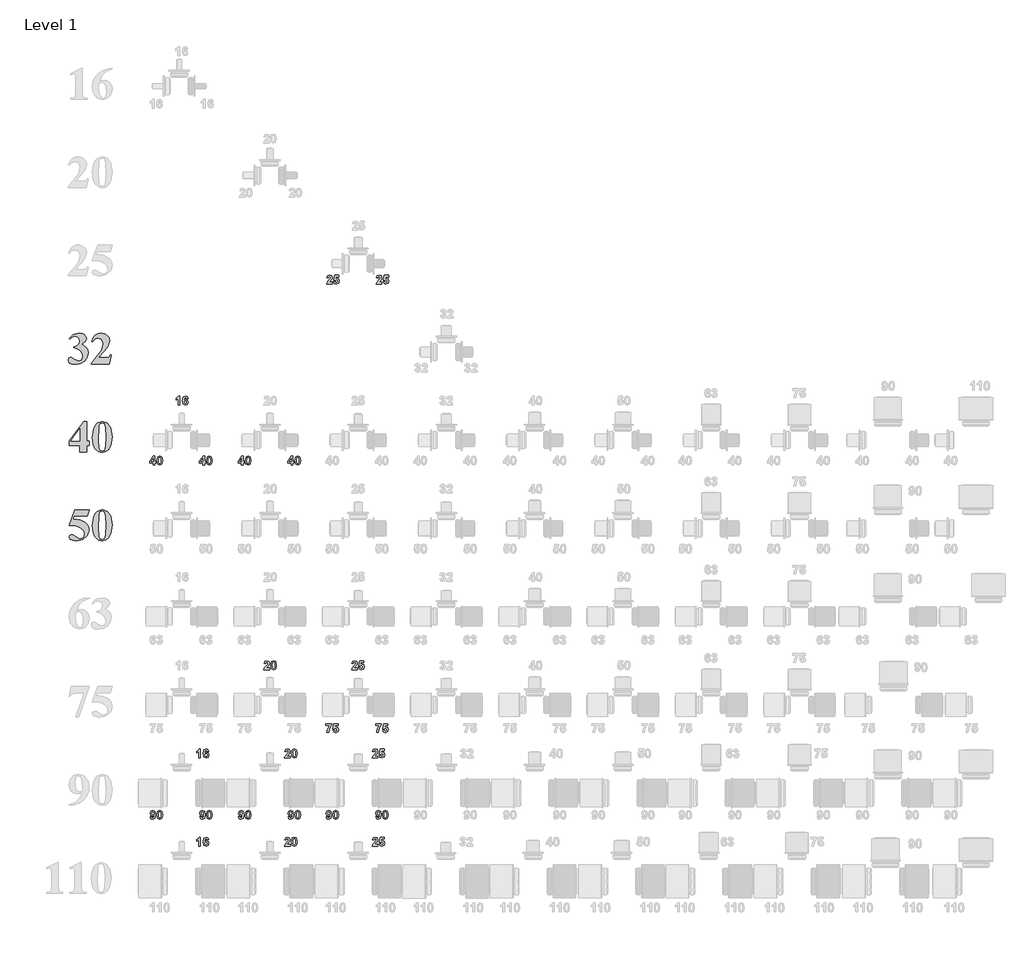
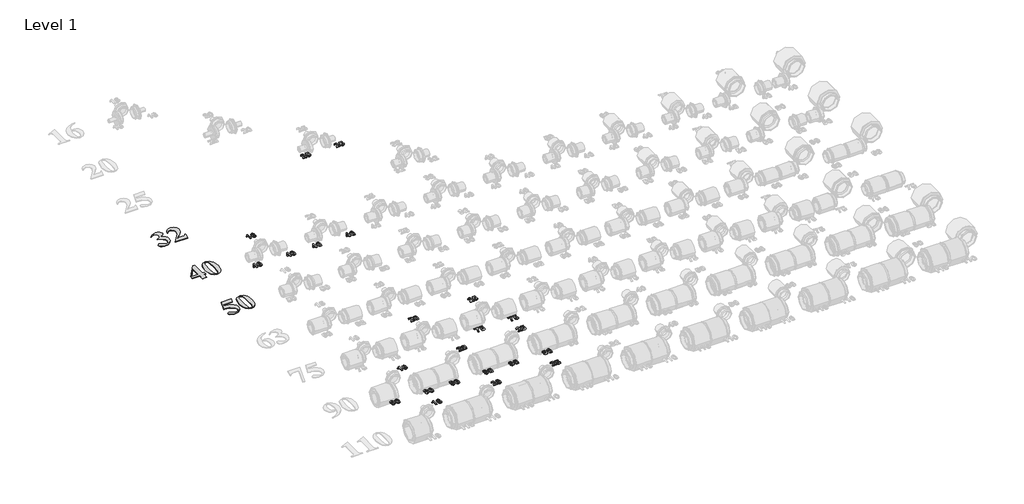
# One storey, part 20 of 57: 26 proxies.
"""IFC4 building model written with IfcOpenShell, lengths in millimetres."""

from ifc_helpers import new_model, si_unit, frame, origin, place, context, project, spatial, polyline, outline, extrude, element, save

model = new_model("IFC4")

# Units and contexts
model_context = context("Model", 3, world=origin())
ifc_project = project(units=[si_unit("LENGTHUNIT", "METRE", prefix="MILLI")], contexts=[model_context])

# Site, building, storey
site = spatial("IfcSite", under=ifc_project)
building = spatial("IfcBuilding", under=site)
storey = spatial("IfcBuildingStorey", under=building, Name="Level 1", Elevation=27.3876384)

# Proxies
placement = place(None, origin())
element("IfcBuildingElementProxy", 1, Name="100mm Arial", ObjectType="100mm Arial", at=placement, inside=storey, context=model_context, shape_type="SweptSolid", body=[
    extrude(outline(polyline([(12899.1420734, 17762.0336893), (12899.1420734, 17763.7786156), (12911.5746733, 17768.5907951), (12917.5592251, 17775.379649), (12920.0811889, 17784.6359377), (12915.3780673, 17795.773475), (12903.667976, 17800.4220677), (12893.6073853, 17797.9887135), (12885.1826631, 17790.6886508), (12883.4377368, 17791.6974363), (12897.8470109, 17806.0794459), (12917.436535, 17810.8916255), (12927.4869015, 17809.4397923), (12935.6083065, 17805.0842927), (12940.9759997, 17798.7861993), (12942.7652307, 17791.506585), (12938.7573531, 17781.7322713), (12926.1884309, 17773.4575036), (12942.4107926, 17762.1700117), (12946.6027053, 17754.6109365), (12948.0000096, 17745.3478316), (12945.0077337, 17729.585558), (12936.0309058, 17716.3793288), (12922.0305988, 17707.4331734), (12903.9678852, 17704.4511217), (12892.3668518, 17705.7325519), (12884.3919934, 17709.5768427), (12879.9478842, 17718.8740281), (12882.5243769, 17725.9491589), (12888.4816644, 17728.8800898), (12893.3347406, 17727.7895108), (12902.1956944, 17721.0551859), (12916.4822784, 17714.9206794), (12926.4065467, 17719.3784208), (12930.5507467, 17730.679545), (12928.5502159, 17740.6890148), (12922.5486238, 17749.8873665), (12912.6959247, 17757.3203435), (12899.1420734, 17762.0336893)])), frame((0.0, 0.0, 27.3876384), z_axis=(0.0, 0.0, 1.0), x_axis=(1.0, 0.0, 0.0)), (0.0, 0.0, 1.0), 2.0),
    extrude(outline(polyline([(13020.3326573, 17706.196048), (12958.4695674, 17706.196048), (12958.4695674, 17707.9409743), (12994.2405563, 17752.5456526), (13000.3477984, 17774.9297852), (12995.1266517, 17788.166687), (12982.3805104, 17793.4423626), (12971.3929277, 17790.5114317), (12963.1863212, 17781.718639), (12960.3780805, 17782.7274246), (12965.6367158, 17795.2281856), (12973.0696928, 17803.9937137), (12982.2475961, 17809.1671476), (12992.7410103, 17810.8916255), (13007.2729746, 17807.3063472), (13017.5653133, 17797.4911369), (13021.2869139, 17785.80831), (13015.7794903, 17765.6598643), (13003.7763059, 17749.1171451), (12982.871271, 17727.1351635), (13004.8464365, 17727.1351635), (13015.3841554, 17727.7349819), (13019.392033, 17729.7798174), (13023.5226007, 17735.8597949), (13026.5216927, 17735.8597949), (13020.3326573, 17706.196048)])), frame((0.0, 0.0, 27.3876384), z_axis=(0.0, 0.0, 1.0), x_axis=(1.0, 0.0, 0.0)), (0.0, 0.0, 1.0), 2.0),
])
element("IfcBuildingElementProxy", 2, Name="100mm Arial", ObjectType="100mm Arial", at=placement, inside=storey, context=model_context, shape_type="SweptSolid", body=[
    extrude(outline(polyline([(12883.4377368, 17444.5844264), (12932.7046401, 17510.8916255), (12942.7652307, 17510.8916255), (12942.7652307, 17444.5844264), (12951.4898622, 17444.5844264), (12951.4898622, 17428.8800898), (12942.7652307, 17428.8800898), (12942.7652307, 17406.196048), (12920.0811889, 17406.196048), (12920.0811889, 17428.8800898), (12883.4377368, 17428.8800898), (12883.4377368, 17444.5844264)]), holes=[polyline([(12888.7270446, 17444.5844264), (12920.0811889, 17444.5844264), (12920.0811889, 17486.7625666), (12888.7270446, 17444.5844264)])]), frame((0.0, 0.0, 27.3876384), z_axis=(0.0, 0.0, 1.0), x_axis=(1.0, 0.0, 0.0)), (0.0, 0.0, 1.0), 2.0),
    extrude(outline(polyline([(13030.0115453, 17457.6713736), (13025.5674362, 17429.0982056), (13018.4514086, 17415.7658781), (13008.3090246, 17407.5047427), (12995.9582182, 17404.4511217), (12982.1760269, 17408.213619), (12971.2838698, 17419.0103504), (12965.3129502, 17432.6425871), (12961.9594199, 17456.4717368), (12966.7852317, 17487.0624758), (12971.7746303, 17497.2491647), (12978.8361289, 17504.7434868), (12995.9582182, 17510.8916255), (13013.0939396, 17504.8252802), (13024.8040309, 17488.5074929), (13030.0115453, 17457.6713736)]), holes=[polyline([(13007.3275035, 17457.6713736), (13006.9730654, 17489.0255179), (13002.8561299, 17503.2303085), (12995.9036892, 17505.6568466), (12990.0690919, 17503.8301269), (12985.7613051, 17494.505677), (12984.6434617, 17447.8561632), (12986.3611236, 17418.6831767), (12990.0554597, 17411.498988), (12996.4217142, 17409.6859006), (13002.8561299, 17412.1124387), (13006.9730654, 17425.1721214), (13007.3275035, 17457.6713736)])]), frame((0.0, 0.0, 27.3876384), z_axis=(0.0, 0.0, 1.0), x_axis=(1.0, 0.0, 0.0)), (0.0, 0.0, 1.0), 2.0),
])
element("IfcBuildingElementProxy", 3, Name="100mm Arial", ObjectType="100mm Arial", at=placement, inside=storey, context=model_context, shape_type="SweptSolid", body=[
    extrude(outline(polyline([(12902.631926, 17209.1466992), (12951.4898622, 17209.1466992), (12944.510157, 17188.2075837), (12900.2326524, 17188.2075837), (12897.042709, 17179.4829522), (12921.3353547, 17175.7068227), (12939.3026426, 17166.3414761), (12948.4430573, 17155.0880647), (12951.4898622, 17141.394483), (12945.7915873, 17122.6910543), (12930.0736184, 17109.0042887), (12908.0848207, 17104.4511217), (12888.2635486, 17109.249669), (12883.4377368, 17116.9655149), (12885.9597006, 17122.8410089), (12891.8351946, 17125.3902372), (12897.9697011, 17124.0815425), (12908.6028457, 17117.1836307), (12916.7821877, 17112.4123479), (12922.2078178, 17111.4308268), (12933.0590782, 17115.9976261), (12937.5304518, 17126.9715766), (12934.1360249, 17139.0088416), (12923.9527441, 17148.5650395), (12908.5960295, 17154.8017878), (12889.6813012, 17156.8807039), (12883.4377368, 17156.7989104), (12902.631926, 17209.1466992)])), frame((0.0, 0.0, 27.3876384), z_axis=(0.0, 0.0, 1.0), x_axis=(1.0, 0.0, 0.0)), (0.0, 0.0, 1.0), 2.0),
    extrude(outline(polyline([(13030.0115453, 17157.6713736), (13025.5674362, 17129.0982056), (13018.4514086, 17115.7658781), (13008.3090246, 17107.5047427), (12995.9582182, 17104.4511217), (12982.1760269, 17108.213619), (12971.2838698, 17119.0103504), (12965.3129502, 17132.6425871), (12961.9594199, 17156.4717368), (12966.7852317, 17187.0624758), (12971.7746303, 17197.2491647), (12978.8361289, 17204.7434868), (12995.9582182, 17210.8916255), (13013.0939396, 17204.8252802), (13024.8040309, 17188.5074929), (13030.0115453, 17157.6713736)]), holes=[polyline([(13007.3275035, 17157.6713736), (13006.9730654, 17189.0255179), (13002.8561299, 17203.2303085), (12995.9036892, 17205.6568466), (12990.0690919, 17203.8301269), (12985.7613051, 17194.505677), (12984.6434617, 17147.8561632), (12986.3611236, 17118.6831767), (12990.0554597, 17111.498988), (12996.4217142, 17109.6859006), (13002.8561299, 17112.1124387), (13006.9730654, 17125.1721214), (13007.3275035, 17157.6713736)])]), frame((0.0, 0.0, 27.3876384), z_axis=(0.0, 0.0, 1.0), x_axis=(1.0, 0.0, 0.0)), (0.0, 0.0, 1.0), 2.0),
])
element("IfcBuildingElementProxy", 4, Name="30mm Arial", ObjectType="30mm Arial", at=placement, inside=storey, context=model_context, shape_type="SweptSolid", body=[
    extrude(outline(polyline([(13778.0287378, 17983.4089076), (13778.0287378, 17977.5788539), (13758.5952254, 17977.5788539), (13760.4550733, 17983.298835), (13766.566002, 17990.4687383), (13771.0751842, 17995.3574813), (13772.1986841, 17998.864623), (13771.2535777, 18001.8138103), (13768.6459951, 18002.84242), (13766.0346169, 18001.8289927), (13764.911117, 17998.4698797), (13759.0810633, 17999.0012648), (13762.2086442, 18006.0497087), (13768.7750458, 18008.1866359), (13775.5615927, 18005.7916074), (13778.0287378, 17999.8362986), (13777.3531196, 17995.979961), (13775.2123968, 17992.146397), (13771.5875912, 17988.3204243), (13768.2588431, 17985.003063), (13767.1657081, 17983.4089076), (13778.0287378, 17983.4089076)])), frame((0.0, 0.0, 27.3876384), z_axis=(0.0, 0.0, 1.0), x_axis=(1.0, 0.0, 0.0)), (0.0, 0.0, 1.0), 2.0),
    extrude(outline(polyline([(13781.9154403, 17986.1948838), (13787.2596562, 17986.8097723), (13788.7475345, 17983.6138705), (13791.6018316, 17982.437232), (13794.7256169, 17983.685987), (13796.0047368, 17987.4474344), (13794.8167115, 17990.9773498), (13791.7232911, 17992.1539882), (13787.4570278, 17989.7247992), (13782.4012781, 17990.4763295), (13785.8021428, 18007.7007981), (13800.3772771, 18007.7007981), (13800.3772771, 18001.8707444), (13790.5162878, 18001.8707444), (13789.3396493, 17996.3063832), (13793.0973011, 17997.4982041), (13799.2917332, 17994.7387972), (13801.8347905, 17987.5764851), (13799.7168413, 17981.0252659), (13791.6929262, 17977.0930161), (13785.0088607, 17979.5601612), (13781.9154403, 17986.1948838)])), frame((0.0, 0.0, 27.3876384), z_axis=(0.0, 0.0, 1.0), x_axis=(1.0, 0.0, 0.0)), (0.0, 0.0, 1.0), 2.0),
])
element("IfcBuildingElementProxy", 5, Name="30mm Arial", ObjectType="30mm Arial", at=placement, inside=storey, context=model_context, shape_type="SweptSolid", body=[
    extrude(outline(polyline([(13946.7787378, 17983.4089076), (13946.7787378, 17977.5788539), (13927.3452254, 17977.5788539), (13929.2050733, 17983.298835), (13935.316002, 17990.4687383), (13939.8251842, 17995.3574813), (13940.9486841, 17998.864623), (13940.0035777, 18001.8138103), (13937.3959951, 18002.84242), (13934.7846169, 18001.8289927), (13933.661117, 17998.4698797), (13927.8310633, 17999.0012648), (13930.9586442, 18006.0497087), (13937.5250458, 18008.1866359), (13944.3115927, 18005.7916074), (13946.7787378, 17999.8362986), (13946.1031196, 17995.979961), (13943.9623968, 17992.146397), (13940.3375912, 17988.3204243), (13937.0088431, 17985.003063), (13935.9157081, 17983.4089076), (13946.7787378, 17983.4089076)])), frame((0.0, 0.0, 27.3876384), z_axis=(0.0, 0.0, 1.0), x_axis=(1.0, 0.0, 0.0)), (0.0, 0.0, 1.0), 2.0),
    extrude(outline(polyline([(13950.6654403, 17986.1948838), (13956.0096562, 17986.8097723), (13957.4975345, 17983.6138705), (13960.3518316, 17982.437232), (13963.4756169, 17983.685987), (13964.7547368, 17987.4474344), (13963.5667115, 17990.9773498), (13960.4732911, 17992.1539882), (13956.2070278, 17989.7247992), (13951.1512781, 17990.4763295), (13954.5521428, 18007.7007981), (13969.1272771, 18007.7007981), (13969.1272771, 18001.8707444), (13959.2662878, 18001.8707444), (13958.0896493, 17996.3063832), (13961.8473011, 17997.4982041), (13968.0417332, 17994.7387972), (13970.5847905, 17987.5764851), (13968.4668413, 17981.0252659), (13960.4429262, 17977.0930161), (13953.7588607, 17979.5601612), (13950.6654403, 17986.1948838)])), frame((0.0, 0.0, 27.3876384), z_axis=(0.0, 0.0, 1.0), x_axis=(1.0, 0.0, 0.0)), (0.0, 0.0, 1.0), 2.0),
])
element("IfcBuildingElementProxy", 6, Name="30mm Arial", ObjectType="30mm Arial", at=placement, inside=storey, context=model_context, shape_type="SweptSolid", body=[
    extrude(outline(polyline([(13169.2836573, 17362.5788539), (13169.2836573, 17368.8947455), (13157.6235498, 17368.8947455), (13157.6235498, 17373.7303499), (13170.0579613, 17392.7007981), (13175.113711, 17392.7007981), (13175.113711, 17373.7531236), (13179.0004134, 17373.7531236), (13179.0004134, 17368.8947455), (13175.113711, 17368.8947455), (13175.113711, 17362.5788539), (13169.2836573, 17362.5788539)]), holes=[polyline([(13169.2836573, 17373.7531236), (13169.2836573, 17383.6976162), (13162.7703941, 17373.7531236), (13169.2836573, 17373.7531236)])]), frame((0.0, 0.0, 27.3876384), z_axis=(0.0, 0.0, 1.0), x_axis=(1.0, 0.0, 0.0)), (0.0, 0.0, 1.0), 2.0),
    extrude(outline(polyline([(13191.6321965, 17393.1866359), (13198.4263346, 17390.0286902), (13201.3489527, 17377.6322348), (13198.4111522, 17365.2054146), (13191.6321965, 17362.0930161), (13184.5913439, 17365.5090632), (13181.9154403, 17377.6929645), (13184.8532408, 17390.0742375), (13191.6321965, 17393.1866359)]), holes=[polyline([(13191.6321965, 17387.84242), (13189.6888453, 17387.2009623), (13188.3679737, 17384.8970283), (13187.745494, 17377.6322348), (13188.2996528, 17370.6141558), (13189.7002321, 17368.0710985), (13191.6321965, 17367.437232), (13193.5755477, 17368.0786898), (13194.8964193, 17370.3826237), (13195.518899, 17377.6322348), (13194.9647402, 17384.6465182), (13193.5641609, 17387.2009623), (13191.6321965, 17387.84242)])]), frame((0.0, 0.0, 27.3876384), z_axis=(0.0, 0.0, 1.0), x_axis=(1.0, 0.0, 0.0)), (0.0, 0.0, 1.0), 2.0),
])
element("IfcBuildingElementProxy", 7, Name="30mm Arial", ObjectType="30mm Arial", at=placement, inside=storey, context=model_context, shape_type="SweptSolid", body=[
    extrude(outline(polyline([(13338.0336573, 17362.5788539), (13338.0336573, 17368.8947455), (13326.3735498, 17368.8947455), (13326.3735498, 17373.7303499), (13338.8079613, 17392.7007981), (13343.863711, 17392.7007981), (13343.863711, 17373.7531236), (13347.7504134, 17373.7531236), (13347.7504134, 17368.8947455), (13343.863711, 17368.8947455), (13343.863711, 17362.5788539), (13338.0336573, 17362.5788539)]), holes=[polyline([(13338.0336573, 17373.7531236), (13338.0336573, 17383.6976162), (13331.5203941, 17373.7531236), (13338.0336573, 17373.7531236)])]), frame((0.0, 0.0, 27.3876384), z_axis=(0.0, 0.0, 1.0), x_axis=(1.0, 0.0, 0.0)), (0.0, 0.0, 1.0), 2.0),
    extrude(outline(polyline([(13360.3821965, 17393.1866359), (13367.1763346, 17390.0286902), (13370.0989527, 17377.6322348), (13367.1611522, 17365.2054146), (13360.3821965, 17362.0930161), (13353.3413439, 17365.5090632), (13350.6654403, 17377.6929645), (13353.6032408, 17390.0742375), (13360.3821965, 17393.1866359)]), holes=[polyline([(13360.3821965, 17387.84242), (13358.4388453, 17387.2009623), (13357.1179737, 17384.8970283), (13356.495494, 17377.6322348), (13357.0496528, 17370.6141558), (13358.4502321, 17368.0710985), (13360.3821965, 17367.437232), (13362.3255477, 17368.0786898), (13363.6464193, 17370.3826237), (13364.268899, 17377.6322348), (13363.7147402, 17384.6465182), (13362.3141609, 17387.2009623), (13360.3821965, 17387.84242)])]), frame((0.0, 0.0, 27.3876384), z_axis=(0.0, 0.0, 1.0), x_axis=(1.0, 0.0, 0.0)), (0.0, 0.0, 1.0), 2.0),
])
element("IfcBuildingElementProxy", 8, Name="30mm Arial", ObjectType="30mm Arial", at=placement, inside=storey, context=model_context, shape_type="SweptSolid", body=[
    extrude(outline(polyline([(13260.0985445, 17566.3974945), (13254.2684908, 17566.3974945), (13254.2684908, 17588.2753784), (13246.9809237, 17583.4018178), (13246.9809237, 17589.2318715), (13251.846893, 17592.0899643), (13255.4527205, 17597.0052765), (13260.0985445, 17597.0052765), (13260.0985445, 17566.3974945)])), frame((0.0, 0.0, 27.3876384), z_axis=(0.0, 0.0, 1.0), x_axis=(1.0, 0.0, 0.0)), (0.0, 0.0, 1.0), 2.0),
    extrude(outline(polyline([(13287.7912997, 17588.8826756), (13281.961246, 17588.2601959), (13280.9288406, 17590.8298225), (13278.7577529, 17591.6610606), (13275.7668139, 17590.0479272), (13274.2257971, 17583.2727672), (13279.5548306, 17585.8310069), (13285.7151022, 17583.0981692), (13288.2771375, 17576.0459297), (13285.658168, 17568.686246), (13278.9247597, 17565.9116567), (13271.6827398, 17569.4947105), (13268.8436251, 17581.2383213), (13271.8079949, 17593.3083544), (13279.5092833, 17597.0052765), (13285.0129147, 17594.9252834), (13287.7912997, 17588.8826756)]), holes=[polyline([(13274.6736788, 17576.1749804), (13275.9338206, 17572.5349924), (13278.8108914, 17571.2558726), (13281.4070872, 17572.3034604), (13282.4470838, 17575.7422811), (13281.3273794, 17579.344313), (13278.5300164, 17580.486791), (13275.7933831, 17579.3936559), (13274.6736788, 17576.1749804)])]), frame((0.0, 0.0, 27.3876384), z_axis=(0.0, 0.0, 1.0), x_axis=(1.0, 0.0, 0.0)), (0.0, 0.0, 1.0), 2.0),
])
element("IfcBuildingElementProxy", 9, Name="30mm Arial", ObjectType="30mm Arial", at=placement, inside=storey, context=model_context, shape_type="SweptSolid", body=[
    extrude(outline(polyline([(13469.2836573, 17362.5788539), (13469.2836573, 17368.8947455), (13457.6235498, 17368.8947455), (13457.6235498, 17373.7303499), (13470.0579613, 17392.7007981), (13475.113711, 17392.7007981), (13475.113711, 17373.7531236), (13479.0004134, 17373.7531236), (13479.0004134, 17368.8947455), (13475.113711, 17368.8947455), (13475.113711, 17362.5788539), (13469.2836573, 17362.5788539)]), holes=[polyline([(13469.2836573, 17373.7531236), (13469.2836573, 17383.6976162), (13462.7703941, 17373.7531236), (13469.2836573, 17373.7531236)])]), frame((0.0, 0.0, 27.3876384), z_axis=(0.0, 0.0, 1.0), x_axis=(1.0, 0.0, 0.0)), (0.0, 0.0, 1.0), 2.0),
    extrude(outline(polyline([(13491.6321965, 17393.1866359), (13498.4263346, 17390.0286902), (13501.3489527, 17377.6322348), (13498.4111522, 17365.2054146), (13491.6321965, 17362.0930161), (13484.5913439, 17365.5090632), (13481.9154403, 17377.6929645), (13484.8532408, 17390.0742375), (13491.6321965, 17393.1866359)]), holes=[polyline([(13491.6321965, 17387.84242), (13489.6888453, 17387.2009623), (13488.3679737, 17384.8970283), (13487.745494, 17377.6322348), (13488.2996528, 17370.6141558), (13489.7002321, 17368.0710985), (13491.6321965, 17367.437232), (13493.5755477, 17368.0786898), (13494.8964193, 17370.3826237), (13495.518899, 17377.6322348), (13494.9647402, 17384.6465182), (13493.5641609, 17387.2009623), (13491.6321965, 17387.84242)])]), frame((0.0, 0.0, 27.3876384), z_axis=(0.0, 0.0, 1.0), x_axis=(1.0, 0.0, 0.0)), (0.0, 0.0, 1.0), 2.0),
])
element("IfcBuildingElementProxy", 10, Name="30mm Arial", ObjectType="30mm Arial", at=placement, inside=storey, context=model_context, shape_type="SweptSolid", body=[
    extrude(outline(polyline([(13638.0336573, 17362.5788539), (13638.0336573, 17368.8947455), (13626.3735498, 17368.8947455), (13626.3735498, 17373.7303499), (13638.8079613, 17392.7007981), (13643.863711, 17392.7007981), (13643.863711, 17373.7531236), (13647.7504134, 17373.7531236), (13647.7504134, 17368.8947455), (13643.863711, 17368.8947455), (13643.863711, 17362.5788539), (13638.0336573, 17362.5788539)]), holes=[polyline([(13638.0336573, 17373.7531236), (13638.0336573, 17383.6976162), (13631.5203941, 17373.7531236), (13638.0336573, 17373.7531236)])]), frame((0.0, 0.0, 27.3876384), z_axis=(0.0, 0.0, 1.0), x_axis=(1.0, 0.0, 0.0)), (0.0, 0.0, 1.0), 2.0),
    extrude(outline(polyline([(13660.3821965, 17393.1866359), (13667.1763346, 17390.0286902), (13670.0989527, 17377.6322348), (13667.1611522, 17365.2054146), (13660.3821965, 17362.0930161), (13653.3413439, 17365.5090632), (13650.6654403, 17377.6929645), (13653.6032408, 17390.0742375), (13660.3821965, 17393.1866359)]), holes=[polyline([(13660.3821965, 17387.84242), (13658.4388453, 17387.2009623), (13657.1179737, 17384.8970283), (13656.495494, 17377.6322348), (13657.0496528, 17370.6141558), (13658.4502321, 17368.0710985), (13660.3821965, 17367.437232), (13662.3255477, 17368.0786898), (13663.6464193, 17370.3826237), (13664.268899, 17377.6322348), (13663.7147402, 17384.6465182), (13662.3141609, 17387.2009623), (13660.3821965, 17387.84242)])]), frame((0.0, 0.0, 27.3876384), z_axis=(0.0, 0.0, 1.0), x_axis=(1.0, 0.0, 0.0)), (0.0, 0.0, 1.0), 2.0),
])
element("IfcBuildingElementProxy", 11, Name="30mm Arial", ObjectType="30mm Arial", at=placement, inside=storey, context=model_context, shape_type="SweptSolid", body=[
    extrude(outline(polyline([(13564.9569226, 16672.2275482), (13564.9569226, 16666.3974945), (13545.5234103, 16666.3974945), (13547.3832581, 16672.1174756), (13553.4941868, 16679.2873789), (13558.003369, 16684.1761218), (13559.1268689, 16687.6832635), (13558.1817626, 16690.6324508), (13555.5741799, 16691.6610606), (13552.9628017, 16690.6476333), (13551.8393018, 16687.2885203), (13546.0092481, 16687.8199054), (13549.136829, 16694.8683493), (13555.7032306, 16697.0052765), (13562.4897775, 16694.6102479), (13564.9569226, 16688.6549391), (13564.2813044, 16684.7986015), (13562.1405816, 16680.9650376), (13558.515776, 16677.1390648), (13555.1870279, 16673.8217035), (13554.0938929, 16672.2275482), (13564.9569226, 16672.2275482)])), frame((0.0, 0.0, 27.3876384), z_axis=(0.0, 0.0, 1.0), x_axis=(1.0, 0.0, 0.0)), (0.0, 0.0, 1.0), 2.0),
    extrude(outline(polyline([(13578.5603813, 16697.0052765), (13585.3545194, 16693.8473307), (13588.2771375, 16681.4508754), (13585.339337, 16669.0240552), (13578.5603813, 16665.9116567), (13571.5195287, 16669.3277038), (13568.8436251, 16681.5116051), (13571.7814256, 16693.892878), (13578.5603813, 16697.0052765)]), holes=[polyline([(13578.5603813, 16691.6610606), (13576.6170301, 16691.0196029), (13575.2961585, 16688.7156689), (13574.6736788, 16681.4508754), (13575.2278376, 16674.4327964), (13576.6284169, 16671.8897391), (13578.5603813, 16671.2558726), (13580.5037325, 16671.8973303), (13581.8246041, 16674.2012643), (13582.4470838, 16681.4508754), (13581.892925, 16688.4651587), (13580.4923457, 16691.0196029), (13578.5603813, 16691.6610606)])]), frame((0.0, 0.0, 27.3876384), z_axis=(0.0, 0.0, 1.0), x_axis=(1.0, 0.0, 0.0)), (0.0, 0.0, 1.0), 2.0),
])
element("IfcBuildingElementProxy", 12, Name="30mm Arial", ObjectType="30mm Arial", at=placement, inside=storey, context=model_context, shape_type="SweptSolid", body=[
    extrude(outline(polyline([(13756.5952254, 16476.8707444), (13756.5952254, 16482.7007981), (13776.0287378, 16482.7007981), (13776.0287378, 16478.3282578), (13771.022331, 16471.3595218), (13767.1394242, 16461.7110865), (13765.8261438, 16452.5788539), (13759.9960901, 16452.5788539), (13762.6568112, 16465.2903447), (13769.3636504, 16476.8707444), (13756.5952254, 16476.8707444)])), frame((0.0, 0.0, 27.3876384), z_axis=(0.0, 0.0, 1.0), x_axis=(1.0, 0.0, 0.0)), (0.0, 0.0, 1.0), 2.0),
    extrude(outline(polyline([(13779.9154403, 16461.1948838), (13785.2596562, 16461.8097723), (13786.7475345, 16458.6138705), (13789.6018316, 16457.437232), (13792.7256169, 16458.685987), (13794.0047368, 16462.4474344), (13792.8167115, 16465.9773498), (13789.7232911, 16467.1539882), (13785.4570278, 16464.7247992), (13780.4012781, 16465.4763295), (13783.8021428, 16482.7007981), (13798.3772771, 16482.7007981), (13798.3772771, 16476.8707444), (13788.5162878, 16476.8707444), (13787.3396493, 16471.3063832), (13791.0973011, 16472.4982041), (13797.2917332, 16469.7387972), (13799.8347905, 16462.5764851), (13797.7168413, 16456.0252659), (13789.6929262, 16452.0930161), (13783.0088607, 16454.5601612), (13779.9154403, 16461.1948838)])), frame((0.0, 0.0, 27.3876384), z_axis=(0.0, 0.0, 1.0), x_axis=(1.0, 0.0, 0.0)), (0.0, 0.0, 1.0), 2.0),
])
element("IfcBuildingElementProxy", 13, Name="30mm Arial", ObjectType="30mm Arial", at=placement, inside=storey, context=model_context, shape_type="SweptSolid", body=[
    extrude(outline(polyline([(13925.3452254, 16476.8707444), (13925.3452254, 16482.7007981), (13944.7787378, 16482.7007981), (13944.7787378, 16478.3282578), (13939.772331, 16471.3595218), (13935.8894242, 16461.7110865), (13934.5761438, 16452.5788539), (13928.7460901, 16452.5788539), (13931.4068112, 16465.2903447), (13938.1136504, 16476.8707444), (13925.3452254, 16476.8707444)])), frame((0.0, 0.0, 27.3876384), z_axis=(0.0, 0.0, 1.0), x_axis=(1.0, 0.0, 0.0)), (0.0, 0.0, 1.0), 2.0),
    extrude(outline(polyline([(13948.6654403, 16461.1948838), (13954.0096562, 16461.8097723), (13955.4975345, 16458.6138705), (13958.3518316, 16457.437232), (13961.4756169, 16458.685987), (13962.7547368, 16462.4474344), (13961.5667115, 16465.9773498), (13958.4732911, 16467.1539882), (13954.2070278, 16464.7247992), (13949.1512781, 16465.4763295), (13952.5521428, 16482.7007981), (13967.1272771, 16482.7007981), (13967.1272771, 16476.8707444), (13957.2662878, 16476.8707444), (13956.0896493, 16471.3063832), (13959.8473011, 16472.4982041), (13966.0417332, 16469.7387972), (13968.5847905, 16462.5764851), (13966.4668413, 16456.0252659), (13958.4429262, 16452.0930161), (13951.7588607, 16454.5601612), (13948.6654403, 16461.1948838)])), frame((0.0, 0.0, 27.3876384), z_axis=(0.0, 0.0, 1.0), x_axis=(1.0, 0.0, 0.0)), (0.0, 0.0, 1.0), 2.0),
])
element("IfcBuildingElementProxy", 14, Name="30mm Arial", ObjectType="30mm Arial", at=placement, inside=storey, context=model_context, shape_type="SweptSolid", body=[
    extrude(outline(polyline([(13862.9569226, 16672.2275482), (13862.9569226, 16666.3974945), (13843.5234103, 16666.3974945), (13845.3832581, 16672.1174756), (13851.4941868, 16679.2873789), (13856.003369, 16684.1761218), (13857.1268689, 16687.6832635), (13856.1817626, 16690.6324508), (13853.5741799, 16691.6610606), (13850.9628017, 16690.6476333), (13849.8393018, 16687.2885203), (13844.0092481, 16687.8199054), (13847.136829, 16694.8683493), (13853.7032306, 16697.0052765), (13860.4897775, 16694.6102479), (13862.9569226, 16688.6549391), (13862.2813044, 16684.7986015), (13860.1405816, 16680.9650376), (13856.515776, 16677.1390648), (13853.1870279, 16673.8217035), (13852.0938929, 16672.2275482), (13862.9569226, 16672.2275482)])), frame((0.0, 0.0, 27.3876384), z_axis=(0.0, 0.0, 1.0), x_axis=(1.0, 0.0, 0.0)), (0.0, 0.0, 1.0), 2.0),
    extrude(outline(polyline([(13866.8436251, 16675.0135244), (13872.187841, 16675.6284129), (13873.6757193, 16672.432511), (13876.5300164, 16671.2558726), (13879.6538017, 16672.5046276), (13880.9329216, 16676.266075), (13879.7448963, 16679.7959903), (13876.6514759, 16680.9726288), (13872.3852126, 16678.5434397), (13867.3294629, 16679.2949701), (13870.7303276, 16696.5194387), (13885.3054619, 16696.5194387), (13885.3054619, 16690.689385), (13875.4444726, 16690.689385), (13874.2678341, 16685.1250238), (13878.0254859, 16686.3168447), (13884.219918, 16683.5574377), (13886.7629753, 16676.3951257), (13884.6450261, 16669.8439065), (13876.621111, 16665.9116567), (13869.9370455, 16668.3788018), (13866.8436251, 16675.0135244)])), frame((0.0, 0.0, 27.3876384), z_axis=(0.0, 0.0, 1.0), x_axis=(1.0, 0.0, 0.0)), (0.0, 0.0, 1.0), 2.0),
])
element("IfcBuildingElementProxy", 15, Name="30mm Arial", ObjectType="30mm Arial", at=placement, inside=storey, context=model_context, shape_type="SweptSolid", body=[
    extrude(outline(polyline([(13159.0810633, 16165.215617), (13164.911117, 16165.8380967), (13165.9473179, 16163.2722658), (13168.1601573, 16162.437232), (13171.105549, 16164.0503654), (13172.6617483, 16170.8027518), (13167.2492114, 16168.2672857), (13161.1572608, 16170.9887366), (13158.5952254, 16178.0751365), (13161.2255817, 16185.4044553), (13167.9248296, 16188.1866359), (13175.1896231, 16184.6073777), (13178.0287378, 16172.8296064), (13175.0605725, 16160.7861426), (13167.3327148, 16157.0930161), (13161.7911273, 16159.1274619), (13159.0810633, 16165.215617)]), holes=[polyline([(13172.1986841, 16177.9384946), (13170.9461335, 16181.555709), (13168.0538803, 16182.84242), (13165.4576845, 16181.787241), (13164.4252792, 16178.3332379), (13165.5487791, 16174.7539796), (13168.3499377, 16173.6115016), (13171.086571, 16174.7084323), (13172.1986841, 16177.9384946)])]), frame((0.0, 0.0, 27.3876384), z_axis=(0.0, 0.0, 1.0), x_axis=(1.0, 0.0, 0.0)), (0.0, 0.0, 1.0), 2.0),
    extrude(outline(polyline([(13191.6321965, 16188.1866359), (13198.4263346, 16185.0286902), (13201.3489527, 16172.6322348), (13198.4111522, 16160.2054146), (13191.6321965, 16157.0930161), (13184.5913439, 16160.5090632), (13181.9154403, 16172.6929645), (13184.8532408, 16185.0742375), (13191.6321965, 16188.1866359)]), holes=[polyline([(13191.6321965, 16182.84242), (13189.6888453, 16182.2009623), (13188.3679737, 16179.8970283), (13187.745494, 16172.6322348), (13188.2996528, 16165.6141558), (13189.7002321, 16163.0710985), (13191.6321965, 16162.437232), (13193.5755477, 16163.0786898), (13194.8964193, 16165.3826237), (13195.518899, 16172.6322348), (13194.9647402, 16179.6465182), (13193.5641609, 16182.2009623), (13191.6321965, 16182.84242)])]), frame((0.0, 0.0, 27.3876384), z_axis=(0.0, 0.0, 1.0), x_axis=(1.0, 0.0, 0.0)), (0.0, 0.0, 1.0), 2.0),
])
element("IfcBuildingElementProxy", 16, Name="30mm Arial", ObjectType="30mm Arial", at=placement, inside=storey, context=model_context, shape_type="SweptSolid", body=[
    extrude(outline(polyline([(13327.8310633, 16165.215617), (13333.661117, 16165.8380967), (13334.6973179, 16163.2722658), (13336.9101573, 16162.437232), (13339.855549, 16164.0503654), (13341.4117483, 16170.8027518), (13335.9992114, 16168.2672857), (13329.9072608, 16170.9887366), (13327.3452254, 16178.0751365), (13329.9755817, 16185.4044553), (13336.6748296, 16188.1866359), (13343.9396231, 16184.6073777), (13346.7787378, 16172.8296064), (13343.8105725, 16160.7861426), (13336.0827148, 16157.0930161), (13330.5411273, 16159.1274619), (13327.8310633, 16165.215617)]), holes=[polyline([(13340.9486841, 16177.9384946), (13339.6961335, 16181.555709), (13336.8038803, 16182.84242), (13334.2076845, 16181.787241), (13333.1752792, 16178.3332379), (13334.2987791, 16174.7539796), (13337.0999377, 16173.6115016), (13339.836571, 16174.7084323), (13340.9486841, 16177.9384946)])]), frame((0.0, 0.0, 27.3876384), z_axis=(0.0, 0.0, 1.0), x_axis=(1.0, 0.0, 0.0)), (0.0, 0.0, 1.0), 2.0),
    extrude(outline(polyline([(13360.3821965, 16188.1866359), (13367.1763346, 16185.0286902), (13370.0989527, 16172.6322348), (13367.1611522, 16160.2054146), (13360.3821965, 16157.0930161), (13353.3413439, 16160.5090632), (13350.6654403, 16172.6929645), (13353.6032408, 16185.0742375), (13360.3821965, 16188.1866359)]), holes=[polyline([(13360.3821965, 16182.84242), (13358.4388453, 16182.2009623), (13357.1179737, 16179.8970283), (13356.495494, 16172.6322348), (13357.0496528, 16165.6141558), (13358.4502321, 16163.0710985), (13360.3821965, 16162.437232), (13362.3255477, 16163.0786898), (13363.6464193, 16165.3826237), (13364.268899, 16172.6322348), (13363.7147402, 16179.6465182), (13362.3141609, 16182.2009623), (13360.3821965, 16182.84242)])]), frame((0.0, 0.0, 27.3876384), z_axis=(0.0, 0.0, 1.0), x_axis=(1.0, 0.0, 0.0)), (0.0, 0.0, 1.0), 2.0),
])
element("IfcBuildingElementProxy", 17, Name="30mm Arial", ObjectType="30mm Arial", at=placement, inside=storey, context=model_context, shape_type="SweptSolid", body=[
    extrude(outline(polyline([(13330.0985445, 16366.3974945), (13324.2684908, 16366.3974945), (13324.2684908, 16388.2753784), (13316.9809237, 16383.4018178), (13316.9809237, 16389.2318715), (13321.846893, 16392.0899643), (13325.4527205, 16397.0052765), (13330.0985445, 16397.0052765), (13330.0985445, 16366.3974945)])), frame((0.0, 0.0, 27.3876384), z_axis=(0.0, 0.0, 1.0), x_axis=(1.0, 0.0, 0.0)), (0.0, 0.0, 1.0), 2.0),
    extrude(outline(polyline([(13357.7912997, 16388.8826756), (13351.961246, 16388.2601959), (13350.9288406, 16390.8298225), (13348.7577529, 16391.6610606), (13345.7668139, 16390.0479272), (13344.2257971, 16383.2727672), (13349.5548306, 16385.8310069), (13355.7151022, 16383.0981692), (13358.2771375, 16376.0459297), (13355.658168, 16368.686246), (13348.9247597, 16365.9116567), (13341.6827398, 16369.4947105), (13338.8436251, 16381.2383213), (13341.8079949, 16393.3083544), (13349.5092833, 16397.0052765), (13355.0129147, 16394.9252834), (13357.7912997, 16388.8826756)]), holes=[polyline([(13344.6736788, 16376.1749804), (13345.9338206, 16372.5349924), (13348.8108914, 16371.2558726), (13351.4070872, 16372.3034604), (13352.4470838, 16375.7422811), (13351.3273794, 16379.344313), (13348.5300164, 16380.486791), (13345.7933831, 16379.3936559), (13344.6736788, 16376.1749804)])]), frame((0.0, 0.0, 27.3876384), z_axis=(0.0, 0.0, 1.0), x_axis=(1.0, 0.0, 0.0)), (0.0, 0.0, 1.0), 2.0),
])
element("IfcBuildingElementProxy", 18, Name="30mm Arial", ObjectType="30mm Arial", at=placement, inside=storey, context=model_context, shape_type="SweptSolid", body=[
    extrude(outline(polyline([(13459.0810633, 16165.215617), (13464.911117, 16165.8380967), (13465.9473179, 16163.2722658), (13468.1601573, 16162.437232), (13471.105549, 16164.0503654), (13472.6617483, 16170.8027518), (13467.2492114, 16168.2672857), (13461.1572608, 16170.9887366), (13458.5952254, 16178.0751365), (13461.2255817, 16185.4044553), (13467.9248296, 16188.1866359), (13475.1896231, 16184.6073777), (13478.0287378, 16172.8296064), (13475.0605725, 16160.7861426), (13467.3327148, 16157.0930161), (13461.7911273, 16159.1274619), (13459.0810633, 16165.215617)]), holes=[polyline([(13472.1986841, 16177.9384946), (13470.9461335, 16181.555709), (13468.0538803, 16182.84242), (13465.4576845, 16181.787241), (13464.4252792, 16178.3332379), (13465.5487791, 16174.7539796), (13468.3499377, 16173.6115016), (13471.086571, 16174.7084323), (13472.1986841, 16177.9384946)])]), frame((0.0, 0.0, 27.3876384), z_axis=(0.0, 0.0, 1.0), x_axis=(1.0, 0.0, 0.0)), (0.0, 0.0, 1.0), 2.0),
    extrude(outline(polyline([(13491.6321965, 16188.1866359), (13498.4263346, 16185.0286902), (13501.3489527, 16172.6322348), (13498.4111522, 16160.2054146), (13491.6321965, 16157.0930161), (13484.5913439, 16160.5090632), (13481.9154403, 16172.6929645), (13484.8532408, 16185.0742375), (13491.6321965, 16188.1866359)]), holes=[polyline([(13491.6321965, 16182.84242), (13489.6888453, 16182.2009623), (13488.3679737, 16179.8970283), (13487.745494, 16172.6322348), (13488.2996528, 16165.6141558), (13489.7002321, 16163.0710985), (13491.6321965, 16162.437232), (13493.5755477, 16163.0786898), (13494.8964193, 16165.3826237), (13495.518899, 16172.6322348), (13494.9647402, 16179.6465182), (13493.5641609, 16182.2009623), (13491.6321965, 16182.84242)])]), frame((0.0, 0.0, 27.3876384), z_axis=(0.0, 0.0, 1.0), x_axis=(1.0, 0.0, 0.0)), (0.0, 0.0, 1.0), 2.0),
])
element("IfcBuildingElementProxy", 19, Name="30mm Arial", ObjectType="30mm Arial", at=placement, inside=storey, context=model_context, shape_type="SweptSolid", body=[
    extrude(outline(polyline([(13627.8310633, 16165.215617), (13633.661117, 16165.8380967), (13634.6973179, 16163.2722658), (13636.9101573, 16162.437232), (13639.855549, 16164.0503654), (13641.4117483, 16170.8027518), (13635.9992114, 16168.2672857), (13629.9072608, 16170.9887366), (13627.3452254, 16178.0751365), (13629.9755817, 16185.4044553), (13636.6748296, 16188.1866359), (13643.9396231, 16184.6073777), (13646.7787378, 16172.8296064), (13643.8105725, 16160.7861426), (13636.0827148, 16157.0930161), (13630.5411273, 16159.1274619), (13627.8310633, 16165.215617)]), holes=[polyline([(13640.9486841, 16177.9384946), (13639.6961335, 16181.555709), (13636.8038803, 16182.84242), (13634.2076845, 16181.787241), (13633.1752792, 16178.3332379), (13634.2987791, 16174.7539796), (13637.0999377, 16173.6115016), (13639.836571, 16174.7084323), (13640.9486841, 16177.9384946)])]), frame((0.0, 0.0, 27.3876384), z_axis=(0.0, 0.0, 1.0), x_axis=(1.0, 0.0, 0.0)), (0.0, 0.0, 1.0), 2.0),
    extrude(outline(polyline([(13660.3821965, 16188.1866359), (13667.1763346, 16185.0286902), (13670.0989527, 16172.6322348), (13667.1611522, 16160.2054146), (13660.3821965, 16157.0930161), (13653.3413439, 16160.5090632), (13650.6654403, 16172.6929645), (13653.6032408, 16185.0742375), (13660.3821965, 16188.1866359)]), holes=[polyline([(13660.3821965, 16182.84242), (13658.4388453, 16182.2009623), (13657.1179737, 16179.8970283), (13656.495494, 16172.6322348), (13657.0496528, 16165.6141558), (13658.4502321, 16163.0710985), (13660.3821965, 16162.437232), (13662.3255477, 16163.0786898), (13663.6464193, 16165.3826237), (13664.268899, 16172.6322348), (13663.7147402, 16179.6465182), (13662.3141609, 16182.2009623), (13660.3821965, 16182.84242)])]), frame((0.0, 0.0, 27.3876384), z_axis=(0.0, 0.0, 1.0), x_axis=(1.0, 0.0, 0.0)), (0.0, 0.0, 1.0), 2.0),
])
element("IfcBuildingElementProxy", 20, Name="30mm Arial", ObjectType="30mm Arial", at=placement, inside=storey, context=model_context, shape_type="SweptSolid", body=[
    extrude(outline(polyline([(13634.9569226, 16372.2275482), (13634.9569226, 16366.3974945), (13615.5234103, 16366.3974945), (13617.3832581, 16372.1174756), (13623.4941868, 16379.2873789), (13628.003369, 16384.1761218), (13629.1268689, 16387.6832635), (13628.1817626, 16390.6324508), (13625.5741799, 16391.6610606), (13622.9628017, 16390.6476333), (13621.8393018, 16387.2885203), (13616.0092481, 16387.8199054), (13619.136829, 16394.8683493), (13625.7032306, 16397.0052765), (13632.4897775, 16394.6102479), (13634.9569226, 16388.6549391), (13634.2813044, 16384.7986015), (13632.1405816, 16380.9650376), (13628.515776, 16377.1390648), (13625.1870279, 16373.8217035), (13624.0938929, 16372.2275482), (13634.9569226, 16372.2275482)])), frame((0.0, 0.0, 27.3876384), z_axis=(0.0, 0.0, 1.0), x_axis=(1.0, 0.0, 0.0)), (0.0, 0.0, 1.0), 2.0),
    extrude(outline(polyline([(13648.5603813, 16397.0052765), (13655.3545194, 16393.8473307), (13658.2771375, 16381.4508754), (13655.339337, 16369.0240552), (13648.5603813, 16365.9116567), (13641.5195287, 16369.3277038), (13638.8436251, 16381.5116051), (13641.7814256, 16393.892878), (13648.5603813, 16397.0052765)]), holes=[polyline([(13648.5603813, 16391.6610606), (13646.6170301, 16391.0196029), (13645.2961585, 16388.7156689), (13644.6736788, 16381.4508754), (13645.2278376, 16374.4327964), (13646.6284169, 16371.8897391), (13648.5603813, 16371.2558726), (13650.5037325, 16371.8973303), (13651.8246041, 16374.2012643), (13652.4470838, 16381.4508754), (13651.892925, 16388.4651587), (13650.4923457, 16391.0196029), (13648.5603813, 16391.6610606)])]), frame((0.0, 0.0, 27.3876384), z_axis=(0.0, 0.0, 1.0), x_axis=(1.0, 0.0, 0.0)), (0.0, 0.0, 1.0), 2.0),
])
element("IfcBuildingElementProxy", 21, Name="30mm Arial", ObjectType="30mm Arial", at=placement, inside=storey, context=model_context, shape_type="SweptSolid", body=[
    extrude(outline(polyline([(13757.0810633, 16165.215617), (13762.911117, 16165.8380967), (13763.9473179, 16163.2722658), (13766.1601573, 16162.437232), (13769.105549, 16164.0503654), (13770.6617483, 16170.8027518), (13765.2492114, 16168.2672857), (13759.1572608, 16170.9887366), (13756.5952254, 16178.0751365), (13759.2255817, 16185.4044553), (13765.9248296, 16188.1866359), (13773.1896231, 16184.6073777), (13776.0287378, 16172.8296064), (13773.0605725, 16160.7861426), (13765.3327148, 16157.0930161), (13759.7911273, 16159.1274619), (13757.0810633, 16165.215617)]), holes=[polyline([(13770.1986841, 16177.9384946), (13768.9461335, 16181.555709), (13766.0538803, 16182.84242), (13763.4576845, 16181.787241), (13762.4252792, 16178.3332379), (13763.5487791, 16174.7539796), (13766.3499377, 16173.6115016), (13769.086571, 16174.7084323), (13770.1986841, 16177.9384946)])]), frame((0.0, 0.0, 27.3876384), z_axis=(0.0, 0.0, 1.0), x_axis=(1.0, 0.0, 0.0)), (0.0, 0.0, 1.0), 2.0),
    extrude(outline(polyline([(13789.6321965, 16188.1866359), (13796.4263346, 16185.0286902), (13799.3489527, 16172.6322348), (13796.4111522, 16160.2054146), (13789.6321965, 16157.0930161), (13782.5913439, 16160.5090632), (13779.9154403, 16172.6929645), (13782.8532408, 16185.0742375), (13789.6321965, 16188.1866359)]), holes=[polyline([(13789.6321965, 16182.84242), (13787.6888453, 16182.2009623), (13786.3679737, 16179.8970283), (13785.745494, 16172.6322348), (13786.2996528, 16165.6141558), (13787.7002321, 16163.0710985), (13789.6321965, 16162.437232), (13791.5755477, 16163.0786898), (13792.8964193, 16165.3826237), (13793.518899, 16172.6322348), (13792.9647402, 16179.6465182), (13791.5641609, 16182.2009623), (13789.6321965, 16182.84242)])]), frame((0.0, 0.0, 27.3876384), z_axis=(0.0, 0.0, 1.0), x_axis=(1.0, 0.0, 0.0)), (0.0, 0.0, 1.0), 2.0),
])
element("IfcBuildingElementProxy", 22, Name="30mm Arial", ObjectType="30mm Arial", at=placement, inside=storey, context=model_context, shape_type="SweptSolid", body=[
    extrude(outline(polyline([(13925.8310633, 16165.215617), (13931.661117, 16165.8380967), (13932.6973179, 16163.2722658), (13934.9101573, 16162.437232), (13937.855549, 16164.0503654), (13939.4117483, 16170.8027518), (13933.9992114, 16168.2672857), (13927.9072608, 16170.9887366), (13925.3452254, 16178.0751365), (13927.9755817, 16185.4044553), (13934.6748296, 16188.1866359), (13941.9396231, 16184.6073777), (13944.7787378, 16172.8296064), (13941.8105725, 16160.7861426), (13934.0827148, 16157.0930161), (13928.5411273, 16159.1274619), (13925.8310633, 16165.215617)]), holes=[polyline([(13938.9486841, 16177.9384946), (13937.6961335, 16181.555709), (13934.8038803, 16182.84242), (13932.2076845, 16181.787241), (13931.1752792, 16178.3332379), (13932.2987791, 16174.7539796), (13935.0999377, 16173.6115016), (13937.836571, 16174.7084323), (13938.9486841, 16177.9384946)])]), frame((0.0, 0.0, 27.3876384), z_axis=(0.0, 0.0, 1.0), x_axis=(1.0, 0.0, 0.0)), (0.0, 0.0, 1.0), 2.0),
    extrude(outline(polyline([(13958.3821965, 16188.1866359), (13965.1763346, 16185.0286902), (13968.0989527, 16172.6322348), (13965.1611522, 16160.2054146), (13958.3821965, 16157.0930161), (13951.3413439, 16160.5090632), (13948.6654403, 16172.6929645), (13951.6032408, 16185.0742375), (13958.3821965, 16188.1866359)]), holes=[polyline([(13958.3821965, 16182.84242), (13956.4388453, 16182.2009623), (13955.1179737, 16179.8970283), (13954.495494, 16172.6322348), (13955.0496528, 16165.6141558), (13956.4502321, 16163.0710985), (13958.3821965, 16162.437232), (13960.3255477, 16163.0786898), (13961.6464193, 16165.3826237), (13962.268899, 16172.6322348), (13961.7147402, 16179.6465182), (13960.3141609, 16182.2009623), (13958.3821965, 16182.84242)])]), frame((0.0, 0.0, 27.3876384), z_axis=(0.0, 0.0, 1.0), x_axis=(1.0, 0.0, 0.0)), (0.0, 0.0, 1.0), 2.0),
])
element("IfcBuildingElementProxy", 23, Name="30mm Arial", ObjectType="30mm Arial", at=placement, inside=storey, context=model_context, shape_type="SweptSolid", body=[
    extrude(outline(polyline([(13932.9569226, 16372.2275482), (13932.9569226, 16366.3974945), (13913.5234103, 16366.3974945), (13915.3832581, 16372.1174756), (13921.4941868, 16379.2873789), (13926.003369, 16384.1761218), (13927.1268689, 16387.6832635), (13926.1817626, 16390.6324508), (13923.5741799, 16391.6610606), (13920.9628017, 16390.6476333), (13919.8393018, 16387.2885203), (13914.0092481, 16387.8199054), (13917.136829, 16394.8683493), (13923.7032306, 16397.0052765), (13930.4897775, 16394.6102479), (13932.9569226, 16388.6549391), (13932.2813044, 16384.7986015), (13930.1405816, 16380.9650376), (13926.515776, 16377.1390648), (13923.1870279, 16373.8217035), (13922.0938929, 16372.2275482), (13932.9569226, 16372.2275482)])), frame((0.0, 0.0, 27.3876384), z_axis=(0.0, 0.0, 1.0), x_axis=(1.0, 0.0, 0.0)), (0.0, 0.0, 1.0), 2.0),
    extrude(outline(polyline([(13936.8436251, 16375.0135244), (13942.187841, 16375.6284129), (13943.6757193, 16372.432511), (13946.5300164, 16371.2558726), (13949.6538017, 16372.5046276), (13950.9329216, 16376.266075), (13949.7448963, 16379.7959903), (13946.6514759, 16380.9726288), (13942.3852126, 16378.5434397), (13937.3294629, 16379.2949701), (13940.7303276, 16396.5194387), (13955.3054619, 16396.5194387), (13955.3054619, 16390.689385), (13945.4444726, 16390.689385), (13944.2678341, 16385.1250238), (13948.0254859, 16386.3168447), (13954.219918, 16383.5574377), (13956.7629753, 16376.3951257), (13954.6450261, 16369.8439065), (13946.621111, 16365.9116567), (13939.9370455, 16368.3788018), (13936.8436251, 16375.0135244)])), frame((0.0, 0.0, 27.3876384), z_axis=(0.0, 0.0, 1.0), x_axis=(1.0, 0.0, 0.0)), (0.0, 0.0, 1.0), 2.0),
])
element("IfcBuildingElementProxy", 24, Name="30mm Arial", ObjectType="30mm Arial", at=placement, inside=storey, context=model_context, shape_type="SweptSolid", body=[
    extrude(outline(polyline([(13330.0985445, 16066.3974945), (13324.2684908, 16066.3974945), (13324.2684908, 16088.2753784), (13316.9809237, 16083.4018178), (13316.9809237, 16089.2318715), (13321.846893, 16092.0899643), (13325.4527205, 16097.0052765), (13330.0985445, 16097.0052765), (13330.0985445, 16066.3974945)])), frame((0.0, 0.0, 27.3876384), z_axis=(0.0, 0.0, 1.0), x_axis=(1.0, 0.0, 0.0)), (0.0, 0.0, 1.0), 2.0),
    extrude(outline(polyline([(13357.7912997, 16088.8826756), (13351.961246, 16088.2601959), (13350.9288406, 16090.8298225), (13348.7577529, 16091.6610606), (13345.7668139, 16090.0479272), (13344.2257971, 16083.2727672), (13349.5548306, 16085.8310069), (13355.7151022, 16083.0981692), (13358.2771375, 16076.0459297), (13355.658168, 16068.686246), (13348.9247597, 16065.9116567), (13341.6827398, 16069.4947105), (13338.8436251, 16081.2383213), (13341.8079949, 16093.3083544), (13349.5092833, 16097.0052765), (13355.0129147, 16094.9252834), (13357.7912997, 16088.8826756)]), holes=[polyline([(13344.6736788, 16076.1749804), (13345.9338206, 16072.5349924), (13348.8108914, 16071.2558726), (13351.4070872, 16072.3034604), (13352.4470838, 16075.7422811), (13351.3273794, 16079.344313), (13348.5300164, 16080.486791), (13345.7933831, 16079.3936559), (13344.6736788, 16076.1749804)])]), frame((0.0, 0.0, 27.3876384), z_axis=(0.0, 0.0, 1.0), x_axis=(1.0, 0.0, 0.0)), (0.0, 0.0, 1.0), 2.0),
])
element("IfcBuildingElementProxy", 25, Name="30mm Arial", ObjectType="30mm Arial", at=placement, inside=storey, context=model_context, shape_type="SweptSolid", body=[
    extrude(outline(polyline([(13634.9569226, 16072.2275482), (13634.9569226, 16066.3974945), (13615.5234103, 16066.3974945), (13617.3832581, 16072.1174756), (13623.4941868, 16079.2873789), (13628.003369, 16084.1761218), (13629.1268689, 16087.6832635), (13628.1817626, 16090.6324508), (13625.5741799, 16091.6610606), (13622.9628017, 16090.6476333), (13621.8393018, 16087.2885203), (13616.0092481, 16087.8199054), (13619.136829, 16094.8683493), (13625.7032306, 16097.0052765), (13632.4897775, 16094.6102479), (13634.9569226, 16088.6549391), (13634.2813044, 16084.7986015), (13632.1405816, 16080.9650376), (13628.515776, 16077.1390648), (13625.1870279, 16073.8217035), (13624.0938929, 16072.2275482), (13634.9569226, 16072.2275482)])), frame((0.0, 0.0, 27.3876384), z_axis=(0.0, 0.0, 1.0), x_axis=(1.0, 0.0, 0.0)), (0.0, 0.0, 1.0), 2.0),
    extrude(outline(polyline([(13648.5603813, 16097.0052765), (13655.3545194, 16093.8473307), (13658.2771375, 16081.4508754), (13655.339337, 16069.0240552), (13648.5603813, 16065.9116567), (13641.5195287, 16069.3277038), (13638.8436251, 16081.5116051), (13641.7814256, 16093.892878), (13648.5603813, 16097.0052765)]), holes=[polyline([(13648.5603813, 16091.6610606), (13646.6170301, 16091.0196029), (13645.2961585, 16088.7156689), (13644.6736788, 16081.4508754), (13645.2278376, 16074.4327964), (13646.6284169, 16071.8897391), (13648.5603813, 16071.2558726), (13650.5037325, 16071.8973303), (13651.8246041, 16074.2012643), (13652.4470838, 16081.4508754), (13651.892925, 16088.4651587), (13650.4923457, 16091.0196029), (13648.5603813, 16091.6610606)])]), frame((0.0, 0.0, 27.3876384), z_axis=(0.0, 0.0, 1.0), x_axis=(1.0, 0.0, 0.0)), (0.0, 0.0, 1.0), 2.0),
])
element("IfcBuildingElementProxy", 26, Name="30mm Arial", ObjectType="30mm Arial", at=placement, inside=storey, context=model_context, shape_type="SweptSolid", body=[
    extrude(outline(polyline([(13932.9569226, 16072.2275482), (13932.9569226, 16066.3974945), (13913.5234103, 16066.3974945), (13915.3832581, 16072.1174756), (13921.4941868, 16079.2873789), (13926.003369, 16084.1761218), (13927.1268689, 16087.6832635), (13926.1817626, 16090.6324508), (13923.5741799, 16091.6610606), (13920.9628017, 16090.6476333), (13919.8393018, 16087.2885203), (13914.0092481, 16087.8199054), (13917.136829, 16094.8683493), (13923.7032306, 16097.0052765), (13930.4897775, 16094.6102479), (13932.9569226, 16088.6549391), (13932.2813044, 16084.7986015), (13930.1405816, 16080.9650376), (13926.515776, 16077.1390648), (13923.1870279, 16073.8217035), (13922.0938929, 16072.2275482), (13932.9569226, 16072.2275482)])), frame((0.0, 0.0, 27.3876384), z_axis=(0.0, 0.0, 1.0), x_axis=(1.0, 0.0, 0.0)), (0.0, 0.0, 1.0), 2.0),
    extrude(outline(polyline([(13936.8436251, 16075.0135244), (13942.187841, 16075.6284129), (13943.6757193, 16072.432511), (13946.5300164, 16071.2558726), (13949.6538017, 16072.5046276), (13950.9329216, 16076.266075), (13949.7448963, 16079.7959903), (13946.6514759, 16080.9726288), (13942.3852126, 16078.5434397), (13937.3294629, 16079.2949701), (13940.7303276, 16096.5194387), (13955.3054619, 16096.5194387), (13955.3054619, 16090.689385), (13945.4444726, 16090.689385), (13944.2678341, 16085.1250238), (13948.0254859, 16086.3168447), (13954.219918, 16083.5574377), (13956.7629753, 16076.3951257), (13954.6450261, 16069.8439065), (13946.621111, 16065.9116567), (13939.9370455, 16068.3788018), (13936.8436251, 16075.0135244)])), frame((0.0, 0.0, 27.3876384), z_axis=(0.0, 0.0, 1.0), x_axis=(1.0, 0.0, 0.0)), (0.0, 0.0, 1.0), 2.0),
])

save(model, "model.ifc")
